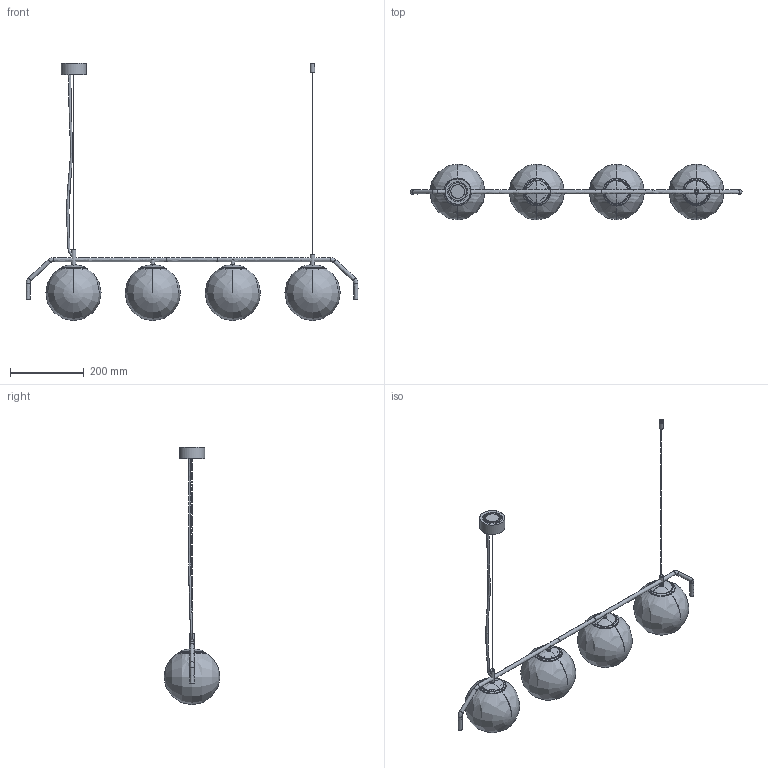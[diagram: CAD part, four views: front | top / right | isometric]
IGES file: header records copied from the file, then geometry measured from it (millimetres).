
Global section: file name: C:\Users\EQUIPO\Desktop\COLECCIONES ACB MODELADAS 3D OK\MAUI\maui-8163-colgante-4 (IGES).igs; native system: Rhinoceros ( Oct  8 2013 ); preprocessor: Trout Lake IGES 012 Oct  8 2013; date: 190207.113740; units: millimetre
Bounding box: 899.81 x 150 x 697.34 mm (x, y, z)
Surface area: 694949.3 mm2 (no closed solid volume)
Topology: 0 solids, 0 shells, 855 faces, 4426 edges, 3703 vertices
Faces by surface type: bspline 855
